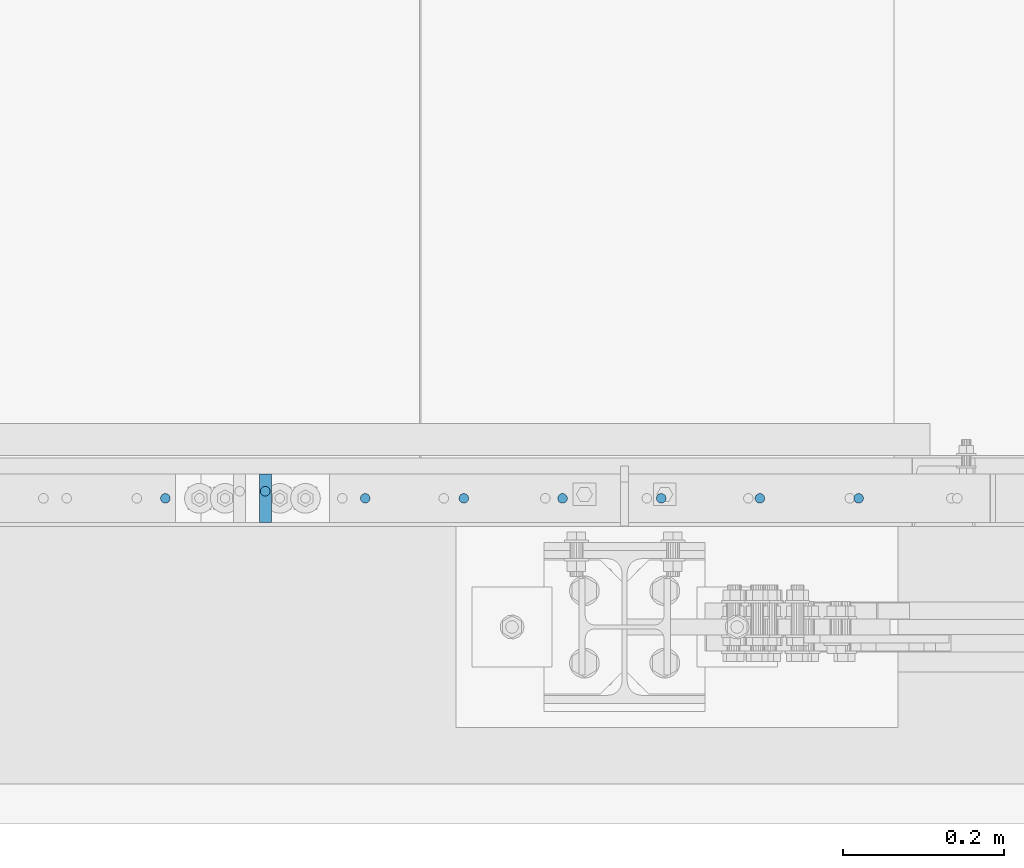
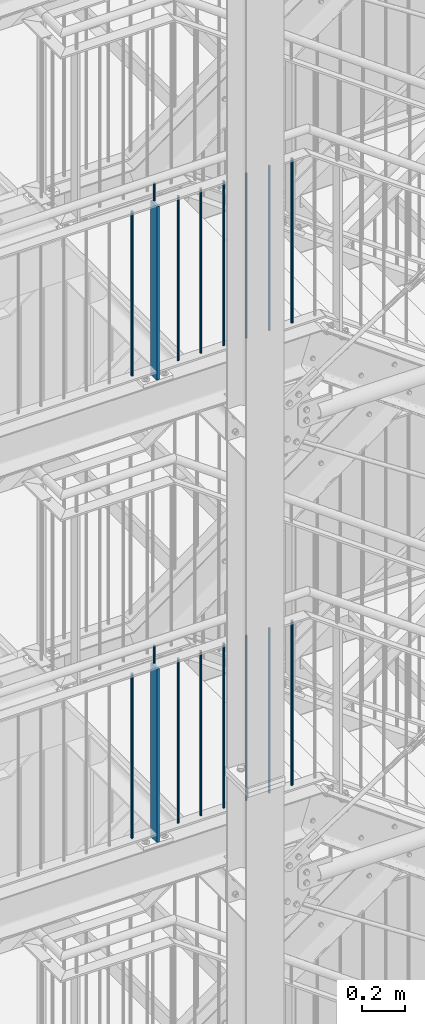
# One storey, part 11 of 825: 18 columns.
"""IFC2X3 building model written with IfcOpenShell, lengths in millimetres."""

import ifcopenshell
import ifcopenshell.guid

model = None  # the IFC model being written
_history = None  # IfcOwnerHistory: only IFC2X3 demands one
_inside = {}  # id of a spatial element -> (the spatial element, [elements in it])
_under = {}  # id of a project, library or spatial element -> (it, [spatial elements below it])
_declared = {}  # id of a project -> (the project, [libraries it declares])
_typed = {}  # id of a type object -> (the type object, [elements of that type])
_made_of = {}  # id of a material, layer set ... -> (it, [elements and type objects made of it])


def new_model(schema):
    """Start an empty IFC model of exactly this schema.

    Asked for "IFC4X3", IfcOpenShell would pick the latest addendum, in which some entities
    have other attributes; the version numbers below select the first issue.
    IFC2X3 requires an IfcOwnerHistory on every rooted entity: one is made here for all.
    """
    global model, _history
    if schema == "IFC4X3":
        model = ifcopenshell.file(schema_version=(4, 3, 0, 0))
    else:
        model = ifcopenshell.file(schema=schema)
    _inside.clear()
    _under.clear()
    _declared.clear()
    _typed.clear()
    _made_of.clear()
    _history = None
    if model.schema == "IFC2X3":
        org = make("IfcOrganization", Name="unknown")
        user = make(
            "IfcPersonAndOrganization",
            ThePerson=make("IfcPerson", FamilyName="unknown"),
            TheOrganization=org,
        )
        app = make(
            "IfcApplication",
            ApplicationDeveloper=org,
            Version="unknown",
            ApplicationFullName="unknown",
            ApplicationIdentifier="unknown",
        )
        _history = make(
            "IfcOwnerHistory",
            OwningUser=user,
            OwningApplication=app,
            ChangeAction="ADDED",
            CreationDate=0,
        )
    return model


def make(cls, **values):
    """One entity of the class cls with the attributes given. An attribute that is None is left unset."""
    return model.create_entity(
        cls, **{name: value for name, value in values.items() if value is not None}
    )


def entity(cls, *values):
    """Any entity or typed value of the class cls, its attributes in the order of the schema. None: left unset."""
    e = model.create_entity(cls)
    for i, value in enumerate(values):
        if value is not None:
            e[i] = value
    return e


def rooted(cls, **values):
    """An entity with a GlobalId (a new one), such as an element, a storey or a relation."""
    return make(cls, GlobalId=ifcopenshell.guid.new(), OwnerHistory=_history, **values)


def si_unit(unit_type, name, prefix=None):
    """IfcSIUnit, for example si_unit("LENGTHUNIT", "METRE", prefix="MILLI")."""
    return make("IfcSIUnit", UnitType=unit_type, Prefix=prefix, Name=name)


def converted_unit(unit_type, name, factor, base, dimensions=None, offset=None):
    """IfcConversionBasedUnit, such as the inch: factor (a typed value) times the base unit."""
    return make(
        "IfcConversionBasedUnit"
        if offset is None
        else "IfcConversionBasedUnitWithOffset",
        ConversionOffset=offset,
        Dimensions=None
        if dimensions is None
        else entity("IfcDimensionalExponents", *dimensions),
        UnitType=unit_type,
        Name=name,
        ConversionFactor=make(
            "IfcMeasureWithUnit", ValueComponent=factor, UnitComponent=base
        ),
    )


def assignment(units):
    """IfcUnitAssignment: the units of a project."""
    return None if units is None else make("IfcUnitAssignment", Units=units)


def point(xyz):
    """IfcCartesianPoint."""
    return None if xyz is None else make("IfcCartesianPoint", Coordinates=xyz)


def direction(xyz):
    """IfcDirection."""
    return None if xyz is None else make("IfcDirection", DirectionRatios=xyz)


def frame(location, z_axis=None, x_axis=None):
    """IfcAxis2Placement3D, a coordinate frame: its origin and axes. An axis left out is left unset."""
    return make(
        "IfcAxis2Placement3D",
        Location=point(location),
        Axis=direction(z_axis),
        RefDirection=direction(x_axis),
    )


def frame_2d(location, x_axis=None):
    """IfcAxis2Placement2D, a coordinate frame in the plane: its origin and x axis."""
    return make(
        "IfcAxis2Placement2D", Location=point(location), RefDirection=direction(x_axis)
    )


def origin():
    """The frame at (0, 0, 0) with its axes left unset."""
    return frame((0.0, 0.0, 0.0))


def origin_with_axes():
    """The frame at (0, 0, 0) with the z axis (0, 0, 1) and the x axis (1, 0, 0) written out."""
    return frame((0.0, 0.0, 0.0), z_axis=(0.0, 0.0, 1.0), x_axis=(1.0, 0.0, 0.0))


def origin_2d():
    """The frame at (0, 0) in the plane with its x axis left unset."""
    return frame_2d((0.0, 0.0))


def place(relative_to, where):
    """IfcLocalPlacement: puts the frame where relative to a parent placement (None: the world)."""
    return make(
        "IfcLocalPlacement", PlacementRelTo=relative_to, RelativePlacement=where
    )


def context(
    kind, dimensions, precision=None, world=None, true_north=None, identifier=None
):
    """IfcGeometricRepresentationContext, for example the 3D "Model" context."""
    return make(
        "IfcGeometricRepresentationContext",
        ContextIdentifier=identifier,
        ContextType=kind,
        CoordinateSpaceDimension=dimensions,
        Precision=precision,
        WorldCoordinateSystem=world,
        TrueNorth=true_north,
    )


def project(units=None, contexts=None):
    """IfcProject with its units and contexts."""
    return rooted(
        "IfcProject",
        Name="project",
        RepresentationContexts=contexts,
        UnitsInContext=assignment(units),
    )


def spatial(cls, under=None, at=None, **own):
    """A site, building, storey or space (cls), placed at a placement, below another one or the project."""
    s = rooted(cls, ObjectPlacement=at, **own)
    if under is not None:
        _under.setdefault(under.id(), (under, []))[1].append(s)
    return s


def profile(cls, at=None, kind="AREA", **sizes):
    """A parametric profile (cls). Its sizes go by their IFC names, for example OverallWidth=200.0."""
    return make(cls, ProfileType=kind, Position=at, **sizes)


def rectangle(**sizes):
    """IfcRectangleProfileDef."""
    return profile("IfcRectangleProfileDef", **sizes)


def circle(**sizes):
    """IfcCircleProfileDef."""
    return profile("IfcCircleProfileDef", **sizes)


def extrude(swept, where, along, depth):
    """IfcExtrudedAreaSolid: the profile swept, set in the frame where, extruded along a direction by depth."""
    return make(
        "IfcExtrudedAreaSolid",
        SweptArea=swept,
        Position=where,
        ExtrudedDirection=direction(along),
        Depth=depth,
    )


def clip(a, b, op="DIFFERENCE"):
    """IfcBooleanClippingResult: the solid a cut by the half space b."""
    return make(
        "IfcBooleanClippingResult", Operator=op, FirstOperand=a, SecondOperand=b
    )


def halfspace(plane, agree):
    """IfcHalfSpaceSolid: all space on one side of the plane z = 0 of the frame plane."""
    return make(
        "IfcHalfSpaceSolid",
        BaseSurface=make("IfcPlane", Position=plane),
        AgreementFlag=agree,
    )


def shape(context_of_items, identifier, shape_type, items):
    """IfcShapeRepresentation: the items that make up one representation, for example the "Body"."""
    return make(
        "IfcShapeRepresentation",
        ContextOfItems=context_of_items,
        RepresentationIdentifier=identifier,
        RepresentationType=shape_type,
        Items=items,
    )


def material(Name=None, Category=None):
    """IfcMaterial."""
    return make("IfcMaterial", Name=Name, Category=Category)


def made_of(thing, what):
    """Note that an element or type object is made of a material, layer set ...; save() writes the relation."""
    if what is not None:
        _made_of.setdefault(what.id(), (what, []))[1].append(thing)
    return thing


def element(
    cls,
    number,
    at=None,
    inside=None,
    cuts=None,
    type_object=None,
    material=None,
    context=None,
    identifier="Body",
    shape_type=None,
    held_by="IfcProductDefinitionShape",
    body=None,
    shapes=None,
    **own,
):
    """One element of the class cls, such as IfcWall. Its Tag is "e" and its number.

    at: its placement. inside: the storey or other place that contains it. cuts: it is an
    opening in that element (IfcRelVoidsElement). A single representation is given by context,
    identifier, shape_type and body (its items); several are given by shapes. held_by: the class
    of the entity that holds the representations. save() writes the other relations.
    """
    e = rooted(cls, Tag="e%d" % number, ObjectPlacement=at, **own)
    if body is not None:
        shapes = [shape(context, identifier, shape_type, body)]
    if shapes is not None:
        e.Representation = make(held_by, Representations=shapes)
    if inside is not None:
        _inside.setdefault(inside.id(), (inside, []))[1].append(e)
    if cuts is not None:
        rooted(
            "IfcRelVoidsElement", RelatingBuildingElement=cuts, RelatedOpeningElement=e
        )
    if type_object is not None:
        _typed.setdefault(type_object.id(), (type_object, []))[1].append(e)
    return made_of(e, material)


def aggregate(whole, parts):
    """IfcRelAggregates: a whole, such as a stair, and the parts it consists of."""
    return rooted("IfcRelAggregates", RelatingObject=whole, RelatedObjects=parts)


def save(model, path):
    """Write the relations noted so far, then the file.

    IfcRelAggregates (storeys below a building ...), IfcRelContainedInSpatialStructure (elements
    in a storey), IfcRelDefinesByType, IfcRelAssociatesMaterial and IfcRelDeclares: one each for
    every whole, place, type object, material and project.
    """
    for whole, parts in _under.values():
        aggregate(whole, parts)
    for where, things in _inside.values():
        rooted(
            "IfcRelContainedInSpatialStructure",
            RelatedElements=things,
            RelatingStructure=where,
        )
    for kind, things in _typed.values():
        rooted("IfcRelDefinesByType", RelatedObjects=things, RelatingType=kind)
    for what, things in _made_of.values():
        rooted("IfcRelAssociatesMaterial", RelatedObjects=things, RelatingMaterial=what)
    for by, libraries in _declared.values():
        rooted("IfcRelDeclares", RelatingContext=by, RelatedDefinitions=libraries)
    model.write(path)


model = new_model("IFC2X3")

# Units and contexts
model_context = context("Model", 3, precision=1e-09, world=origin_with_axes())
ifc_project = project(units=[si_unit("LENGTHUNIT", "METRE", prefix="MILLI"), si_unit("AREAUNIT", "SQUARE_METRE"), si_unit("VOLUMEUNIT", "CUBIC_METRE"), converted_unit("PLANEANGLEUNIT", "DEGREE", entity("IfcPlaneAngleMeasure", 0.01745329), si_unit("PLANEANGLEUNIT", "RADIAN"), dimensions=[0, 0, 0, 0, 0, 0, 0])], contexts=[model_context])

# Site, building, storey
site_placement = place(None, origin_with_axes())
site = spatial("IfcSite", under=ifc_project, at=site_placement, Name="Cnopf'sche Kinderklinik", CompositionType="ELEMENT")
building_placement = place(site_placement, origin_with_axes())
building = spatial("IfcBuilding", under=site, at=building_placement, Name="Struktur 1", CompositionType="ELEMENT")
storey_placement = place(building_placement, origin_with_axes())
storey = spatial("IfcBuildingStorey", under=building, at=storey_placement, Name="Default Storey", CompositionType="ELEMENT", Elevation=0.0)

# Columns
ifc_material = material(Name="S235JR")
column_1_placement = place(None, frame((4409.791688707, 4526.736971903, 13618.723292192), z_axis=(0.0, 0.0, 1.0), x_axis=(-1.0, 0.0, 0.0)))
element("IfcColumn", 1, at=column_1_placement, inside=storey, material=ifc_material, Name="Railing_Post_Landing#12", ObjectType="Railing_Post_Landing#12", context=model_context, shape_type="Clipping", body=[
    clip(clip(extrude(rectangle(XDim=15.0, YDim=60.0, at=origin_2d()), origin(), (0.0, 0.0, -1.0), 1070.646584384), halfspace(frame((4409.791688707, 4526.736971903, -1019.722292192), z_axis=(0.0, 0.0, 1.0), x_axis=(-1.0, 0.0, 0.0)), True)), halfspace(frame((4409.791688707, 4526.736971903, -30.924292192), z_axis=(0.0, 0.0, -1.0), x_axis=(1.0, 0.0, 0.0)), True)),
])
column_2_placement = place(None, frame((5147.791807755, 4526.736971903, 13601.285281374), z_axis=(0.0, 0.0, 1.0), x_axis=(-1.0, 0.0, 0.0)))
element("IfcColumn", 2, at=column_2_placement, inside=storey, material=ifc_material, Name="Railing_Picket_Landing#77", ObjectType="Railing_Picket_Landing#77", context=model_context, shape_type="Clipping", body=[
    clip(clip(extrude(circle(Radius=6.0, at=origin_2d()), origin(), (0.0, 0.0, -1.0), 965.770562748), halfspace(frame((5147.791807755, 4526.736971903, -13.486281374), z_axis=(0.0, 0.0, -1.0), x_axis=(1.0, 0.0, 0.0)), True)), halfspace(frame((5147.791807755, 4526.736971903, -952.284281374), z_axis=(0.0, 0.0, 1.0), x_axis=(-1.0, 0.0, 0.0)), True)),
])
column_3_placement = place(None, frame((5025.041783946, 4526.736971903, 13601.285281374), z_axis=(0.0, 0.0, 1.0), x_axis=(-1.0, 0.0, 0.0)))
element("IfcColumn", 3, at=column_3_placement, inside=storey, material=ifc_material, Name="Railing_Picket_Landing#78", ObjectType="Railing_Picket_Landing#78", context=model_context, shape_type="Clipping", body=[
    clip(clip(extrude(circle(Radius=6.0, at=origin_2d()), origin(), (0.0, 0.0, -1.0), 965.770562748), halfspace(frame((5025.041783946, 4526.736971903, -13.486281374), z_axis=(0.0, 0.0, -1.0), x_axis=(1.0, 0.0, 0.0)), True)), halfspace(frame((5025.041783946, 4526.736971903, -952.284281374), z_axis=(0.0, 0.0, 1.0), x_axis=(-1.0, 0.0, 0.0)), True)),
])
column_4_placement = place(None, frame((4902.291760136, 4526.736971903, 13601.285281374), z_axis=(0.0, 0.0, 1.0), x_axis=(-1.0, 0.0, 0.0)))
element("IfcColumn", 4, at=column_4_placement, inside=storey, material=ifc_material, Name="Railing_Picket_Landing#79", ObjectType="Railing_Picket_Landing#79", context=model_context, shape_type="Clipping", body=[
    clip(clip(extrude(circle(Radius=6.0, at=origin_2d()), origin(), (0.0, 0.0, -1.0), 965.770562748), halfspace(frame((4902.291760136, 4526.736971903, -13.486281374), z_axis=(0.0, 0.0, -1.0), x_axis=(1.0, 0.0, 0.0)), True)), halfspace(frame((4902.291760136, 4526.736971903, -952.284281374), z_axis=(0.0, 0.0, 1.0), x_axis=(-1.0, 0.0, 0.0)), True)),
])
column_5_placement = place(None, frame((4779.541736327, 4526.736971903, 13601.285281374), z_axis=(0.0, 0.0, 1.0), x_axis=(-1.0, 0.0, 0.0)))
element("IfcColumn", 5, at=column_5_placement, inside=storey, material=ifc_material, Name="Railing_Picket_Landing#80", ObjectType="Railing_Picket_Landing#80", context=model_context, shape_type="Clipping", body=[
    clip(clip(extrude(circle(Radius=6.0, at=origin_2d()), origin(), (0.0, 0.0, -1.0), 965.770562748), halfspace(frame((4779.541736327, 4526.736971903, -13.486281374), z_axis=(0.0, 0.0, -1.0), x_axis=(1.0, 0.0, 0.0)), True)), halfspace(frame((4779.541736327, 4526.736971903, -952.284281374), z_axis=(0.0, 0.0, 1.0), x_axis=(-1.0, 0.0, 0.0)), True)),
])
column_6_placement = place(None, frame((4656.791712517, 4526.736971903, 13601.285281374), z_axis=(0.0, 0.0, 1.0), x_axis=(-1.0, 0.0, 0.0)))
element("IfcColumn", 6, at=column_6_placement, inside=storey, material=ifc_material, Name="Railing_Picket_Landing#81", ObjectType="Railing_Picket_Landing#81", context=model_context, shape_type="Clipping", body=[
    clip(clip(extrude(circle(Radius=6.0, at=origin_2d()), origin(), (0.0, 0.0, -1.0), 965.770562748), halfspace(frame((4656.791712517, 4526.736971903, -13.486281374), z_axis=(0.0, 0.0, -1.0), x_axis=(1.0, 0.0, 0.0)), True)), halfspace(frame((4656.791712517, 4526.736971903, -952.284281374), z_axis=(0.0, 0.0, 1.0), x_axis=(-1.0, 0.0, 0.0)), True)),
])
column_7_placement = place(None, frame((4534.041688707, 4526.736971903, 13601.285281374), z_axis=(0.0, 0.0, 1.0), x_axis=(-1.0, 0.0, 0.0)))
element("IfcColumn", 7, at=column_7_placement, inside=storey, material=ifc_material, Name="Railing_Picket_Landing#82", ObjectType="Railing_Picket_Landing#82", context=model_context, shape_type="Clipping", body=[
    clip(clip(extrude(circle(Radius=6.0, at=origin_2d()), origin(), (0.0, 0.0, -1.0), 965.770562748), halfspace(frame((4534.041688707, 4526.736971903, -13.486281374), z_axis=(0.0, 0.0, -1.0), x_axis=(1.0, 0.0, 0.0)), True)), halfspace(frame((4534.041688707, 4526.736971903, -952.284281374), z_axis=(0.0, 0.0, 1.0), x_axis=(-1.0, 0.0, 0.0)), True)),
])
column_8_placement = place(None, frame((4285.541688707, 4526.736971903, 13601.285281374), z_axis=(0.0, 0.0, 1.0), x_axis=(-1.0, 0.0, 0.0)))
element("IfcColumn", 8, at=column_8_placement, inside=storey, material=ifc_material, Name="Railing_Picket_Landing#83", ObjectType="Railing_Picket_Landing#83", context=model_context, shape_type="Clipping", body=[
    clip(clip(extrude(circle(Radius=6.0, at=origin_2d()), origin(), (0.0, 0.0, -1.0), 965.770562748), halfspace(frame((4285.541688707, 4526.736971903, -13.486281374), z_axis=(0.0, 0.0, -1.0), x_axis=(1.0, 0.0, 0.0)), True)), halfspace(frame((4285.541688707, 4526.736971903, -952.284281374), z_axis=(0.0, 0.0, 1.0), x_axis=(-1.0, 0.0, 0.0)), True)),
])
column_9_placement = place(None, frame((4409.791688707, 4535.536971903, 13706.285281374), z_axis=(0.0, 0.0, 1.0), x_axis=(0.0, 1.0, 0.0)))
element("IfcColumn", 9, at=column_9_placement, inside=storey, material=ifc_material, Name="Bar#12", ObjectType="Bar#12", context=model_context, shape_type="Clipping", body=[
    clip(clip(extrude(circle(Radius=6.0, at=origin_2d()), origin(), (0.0, 0.0, -1.0), 116.970562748), halfspace(frame((-4535.536971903, 4409.791688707, -8.486281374), z_axis=(0.0, 0.0, -1.0), x_axis=(0.0, 1.0, 0.0)), True)), halfspace(frame((-4535.536971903, 4409.791688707, -108.484281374), z_axis=(0.0, 0.0, 1.0), x_axis=(0.0, -1.0, 0.0)), True)),
])
column_10_placement = place(None, frame((4409.791688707, 4526.736971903, 16253.723292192), z_axis=(0.0, 0.0, 1.0), x_axis=(-1.0, 0.0, 0.0)))
element("IfcColumn", 10, at=column_10_placement, inside=storey, material=ifc_material, Name="Railing_Post_Landing#12", ObjectType="Railing_Post_Landing#12", context=model_context, shape_type="Clipping", body=[
    clip(clip(extrude(rectangle(XDim=15.0, YDim=60.0, at=origin_2d()), origin(), (0.0, 0.0, -1.0), 1070.646584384), halfspace(frame((4409.791688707, 4526.736971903, -1019.722292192), z_axis=(0.0, 0.0, 1.0), x_axis=(-1.0, 0.0, 0.0)), True)), halfspace(frame((4409.791688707, 4526.736971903, -30.924292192), z_axis=(0.0, 0.0, -1.0), x_axis=(1.0, 0.0, 0.0)), True)),
])
column_11_placement = place(None, frame((5147.791807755, 4526.736971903, 16236.285281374), z_axis=(0.0, 0.0, 1.0), x_axis=(-1.0, 0.0, 0.0)))
element("IfcColumn", 11, at=column_11_placement, inside=storey, material=ifc_material, Name="Railing_Picket_Landing#77", ObjectType="Railing_Picket_Landing#77", context=model_context, shape_type="Clipping", body=[
    clip(clip(extrude(circle(Radius=6.0, at=origin_2d()), origin(), (0.0, 0.0, -1.0), 965.770562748), halfspace(frame((5147.791807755, 4526.736971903, -13.486281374), z_axis=(0.0, 0.0, -1.0), x_axis=(1.0, 0.0, 0.0)), True)), halfspace(frame((5147.791807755, 4526.736971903, -952.284281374), z_axis=(0.0, 0.0, 1.0), x_axis=(-1.0, 0.0, 0.0)), True)),
])
column_12_placement = place(None, frame((5025.041783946, 4526.736971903, 16236.285281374), z_axis=(0.0, 0.0, 1.0), x_axis=(-1.0, 0.0, 0.0)))
element("IfcColumn", 12, at=column_12_placement, inside=storey, material=ifc_material, Name="Railing_Picket_Landing#78", ObjectType="Railing_Picket_Landing#78", context=model_context, shape_type="Clipping", body=[
    clip(clip(extrude(circle(Radius=6.0, at=origin_2d()), origin(), (0.0, 0.0, -1.0), 965.770562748), halfspace(frame((5025.041783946, 4526.736971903, -13.486281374), z_axis=(0.0, 0.0, -1.0), x_axis=(1.0, 0.0, 0.0)), True)), halfspace(frame((5025.041783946, 4526.736971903, -952.284281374), z_axis=(0.0, 0.0, 1.0), x_axis=(-1.0, 0.0, 0.0)), True)),
])
column_13_placement = place(None, frame((4902.291760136, 4526.736971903, 16236.285281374), z_axis=(0.0, 0.0, 1.0), x_axis=(-1.0, 0.0, 0.0)))
element("IfcColumn", 13, at=column_13_placement, inside=storey, material=ifc_material, Name="Railing_Picket_Landing#79", ObjectType="Railing_Picket_Landing#79", context=model_context, shape_type="Clipping", body=[
    clip(clip(extrude(circle(Radius=6.0, at=origin_2d()), origin(), (0.0, 0.0, -1.0), 965.770562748), halfspace(frame((4902.291760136, 4526.736971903, -13.486281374), z_axis=(0.0, 0.0, -1.0), x_axis=(1.0, 0.0, 0.0)), True)), halfspace(frame((4902.291760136, 4526.736971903, -952.284281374), z_axis=(0.0, 0.0, 1.0), x_axis=(-1.0, 0.0, 0.0)), True)),
])
column_14_placement = place(None, frame((4779.541736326, 4526.736971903, 16236.285281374), z_axis=(0.0, 0.0, 1.0), x_axis=(-1.0, 0.0, 0.0)))
element("IfcColumn", 14, at=column_14_placement, inside=storey, material=ifc_material, Name="Railing_Picket_Landing#80", ObjectType="Railing_Picket_Landing#80", context=model_context, shape_type="Clipping", body=[
    clip(clip(extrude(circle(Radius=6.0, at=origin_2d()), origin(), (0.0, 0.0, -1.0), 965.770562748), halfspace(frame((4779.541736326, 4526.736971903, -13.486281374), z_axis=(0.0, 0.0, -1.0), x_axis=(1.0, 0.0, 0.0)), True)), halfspace(frame((4779.541736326, 4526.736971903, -952.284281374), z_axis=(0.0, 0.0, 1.0), x_axis=(-1.0, 0.0, 0.0)), True)),
])
column_15_placement = place(None, frame((4656.791712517, 4526.736971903, 16236.285281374), z_axis=(0.0, 0.0, 1.0), x_axis=(-1.0, 0.0, 0.0)))
element("IfcColumn", 15, at=column_15_placement, inside=storey, material=ifc_material, Name="Railing_Picket_Landing#81", ObjectType="Railing_Picket_Landing#81", context=model_context, shape_type="Clipping", body=[
    clip(clip(extrude(circle(Radius=6.0, at=origin_2d()), origin(), (0.0, 0.0, -1.0), 965.770562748), halfspace(frame((4656.791712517, 4526.736971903, -13.486281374), z_axis=(0.0, 0.0, -1.0), x_axis=(1.0, 0.0, 0.0)), True)), halfspace(frame((4656.791712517, 4526.736971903, -952.284281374), z_axis=(0.0, 0.0, 1.0), x_axis=(-1.0, 0.0, 0.0)), True)),
])
column_16_placement = place(None, frame((4534.041688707, 4526.736971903, 16236.285281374), z_axis=(0.0, 0.0, 1.0), x_axis=(-1.0, 0.0, 0.0)))
element("IfcColumn", 16, at=column_16_placement, inside=storey, material=ifc_material, Name="Railing_Picket_Landing#82", ObjectType="Railing_Picket_Landing#82", context=model_context, shape_type="Clipping", body=[
    clip(clip(extrude(circle(Radius=6.0, at=origin_2d()), origin(), (0.0, 0.0, -1.0), 965.770562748), halfspace(frame((4534.041688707, 4526.736971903, -13.486281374), z_axis=(0.0, 0.0, -1.0), x_axis=(1.0, 0.0, 0.0)), True)), halfspace(frame((4534.041688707, 4526.736971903, -952.284281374), z_axis=(0.0, 0.0, 1.0), x_axis=(-1.0, 0.0, 0.0)), True)),
])
column_17_placement = place(None, frame((4285.541688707, 4526.736971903, 16236.285281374), z_axis=(0.0, 0.0, 1.0), x_axis=(-1.0, 0.0, 0.0)))
element("IfcColumn", 17, at=column_17_placement, inside=storey, material=ifc_material, Name="Railing_Picket_Landing#83", ObjectType="Railing_Picket_Landing#83", context=model_context, shape_type="Clipping", body=[
    clip(clip(extrude(circle(Radius=6.0, at=origin_2d()), origin(), (0.0, 0.0, -1.0), 965.770562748), halfspace(frame((4285.541688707, 4526.736971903, -13.486281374), z_axis=(0.0, 0.0, -1.0), x_axis=(1.0, 0.0, 0.0)), True)), halfspace(frame((4285.541688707, 4526.736971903, -952.284281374), z_axis=(0.0, 0.0, 1.0), x_axis=(-1.0, 0.0, 0.0)), True)),
])
column_18_placement = place(None, frame((4409.791688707, 4535.536971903, 16341.285281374), z_axis=(0.0, 0.0, 1.0), x_axis=(0.0, 1.0, 0.0)))
element("IfcColumn", 18, at=column_18_placement, inside=storey, material=ifc_material, Name="Bar#12", ObjectType="Bar#12", context=model_context, shape_type="Clipping", body=[
    clip(clip(extrude(circle(Radius=6.0, at=origin_2d()), origin(), (0.0, 0.0, -1.0), 116.970562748), halfspace(frame((-4535.536971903, 4409.791688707, -8.486281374), z_axis=(0.0, 0.0, -1.0), x_axis=(0.0, 1.0, 0.0)), True)), halfspace(frame((-4535.536971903, 4409.791688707, -108.484281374), z_axis=(0.0, 0.0, 1.0), x_axis=(0.0, -1.0, 0.0)), True)),
])

save(model, "model.ifc")
